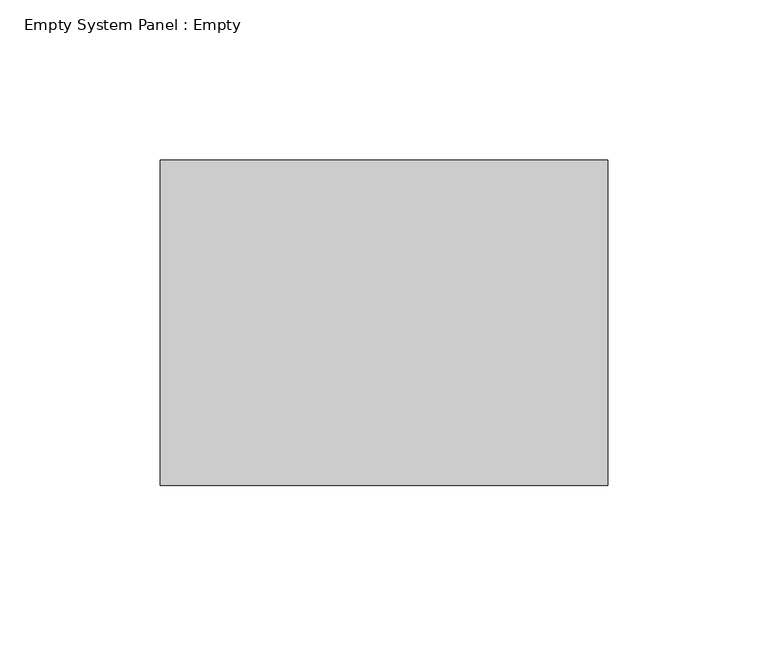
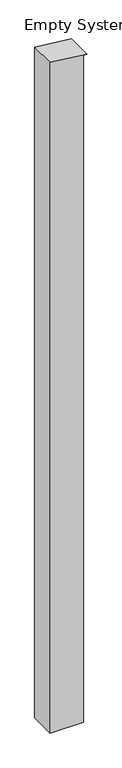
"""IFC4 building model written with IfcOpenShell, lengths in millimetres: plate geometry, Empty System Panel : Empty."""

from ifc_helpers import new_model, si_unit, frame, origin, place, context, project, spatial, polyline, outline, extrude, source, transform, mapped, element, save


def empty_system_panel_empty_81c4c1f9(model_context):
    return source(origin(), model_context, "Body", "SweptSolid", [
        extrude(outline(polyline([(0.0, -69.85), (0.0, 57.15), (2673.1740429, 57.15), (2673.1740429, 69.85), (2688.7992329, -69.85), (0.0, -69.85)])), frame((0.0, -50.8, 0.0), z_axis=(0.0, 1.0, 0.0), x_axis=(0.0, 0.0, 1.0)), (0.0, 0.0, 1.0), 101.6),
    ])


if __name__ == "__main__":
    model = new_model("IFC4")
    model_context = context("Model", 3, world=origin())
    ifc_project = project(units=[si_unit("LENGTHUNIT", "METRE", prefix="MILLI")], contexts=[model_context])
    site = spatial("IfcSite", under=ifc_project)
    building = spatial("IfcBuilding", under=site)
    placement = place(None, origin())
    empty_system_panel_empty_shape = empty_system_panel_empty_81c4c1f9(model_context)
    element("IfcPlate", 1, ObjectType="Empty System Panel : Empty", at=placement, inside=building, context=model_context, shape_type="MappedRepresentation", body=[
        mapped(empty_system_panel_empty_shape, transform((0.0, 0.0, 0.0), x_axis=(1.0, 0.0, 0.0), y_axis=(0.0, 1.0, 0.0), z_axis=(0.0, 0.0, 1.0))),
    ])
    save(model, "model.ifc")
